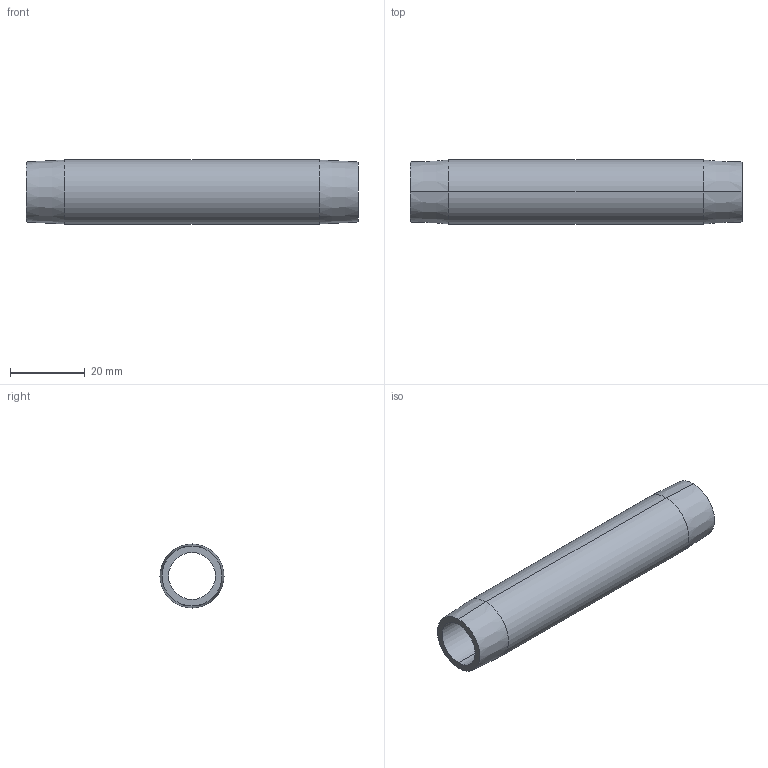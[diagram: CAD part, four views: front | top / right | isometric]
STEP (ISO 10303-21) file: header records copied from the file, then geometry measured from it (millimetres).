
FILE_DESCRIPTION (( 'STEP AP203' ), '1' );
FILE_NAME ('BPN37L3.5.step', '2020-08-19T07:32:56', ( 'Microsoft Corporation' ), ( 'MS' ), 'SwSTEP 2.0', 'SolidWorks 2018', '' );
FILE_SCHEMA (( 'CONFIG_CONTROL_DESIGN' ));
Length unit declared in the file: inch
Products named in the file (1): BPN37L3.5
Bounding box: 88.9 x 17.14 x 17.14 mm (x, y, z)
Volume: 9281.9 mm3; surface area: 8411.2 mm2
Topology: 1 solids, 1 shells, 10 faces, 20 edges, 12 vertices
Faces by surface type: cylinder 4, cone 4, plane 2
Entity records: 347 total; most frequent: DIRECTION 54, CARTESIAN_POINT 43, ORIENTED_EDGE 40, AXIS2_PLACEMENT_3D 23, EDGE_CURVE 20, EDGE_LOOP 12, CIRCLE 12, VERTEX_POINT 12
